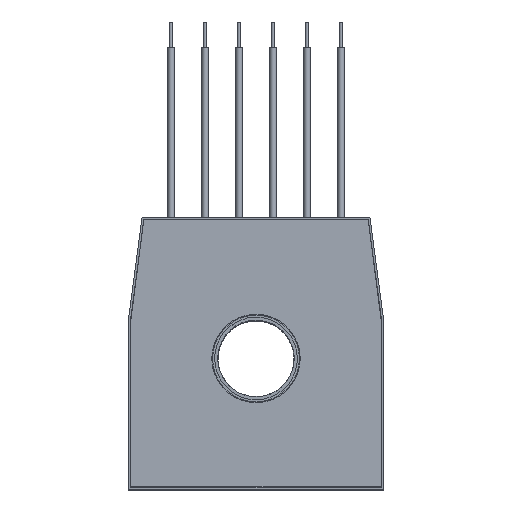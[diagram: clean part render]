
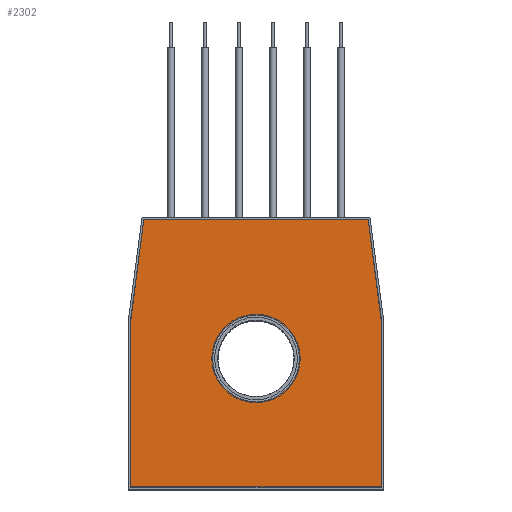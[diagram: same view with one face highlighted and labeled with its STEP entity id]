
A CAD part, top view. The second image highlights one B-rep face of the part: STEP entity #2302.
In plain terms, the highlighted planar face has unit normal (0, 0, 1).
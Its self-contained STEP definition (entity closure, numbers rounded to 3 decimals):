
#2302=ADVANCED_FACE('',(#3766,#3768),#3770,.T.);
#3766=FACE_BOUND('',#3767,.T.);
#3767=EDGE_LOOP('',(#4616,#4617,#4618,#4619,#4620,#4621));
#3768=FACE_BOUND('',#3769,.T.);
#3769=EDGE_LOOP('',(#4622));
#3770=PLANE('',#3771);
#3771=AXIS2_PLACEMENT_3D('',#3772,#3773,#3774);
#3772=CARTESIAN_POINT('',(0.,0.,5.));
#3773=DIRECTION('',(0.,0.,1.));
#3774=DIRECTION('',(1.,0.,0.));
#4616=ORIENTED_EDGE('',*,*,#5035,.T.);
#4617=ORIENTED_EDGE('',*,*,#5036,.T.);
#4618=ORIENTED_EDGE('',*,*,#5037,.T.);
#4619=ORIENTED_EDGE('',*,*,#5038,.T.);
#4620=ORIENTED_EDGE('',*,*,#5039,.T.);
#4621=ORIENTED_EDGE('',*,*,#5040,.T.);
#4622=ORIENTED_EDGE('',*,*,#5041,.T.);
#5035=EDGE_CURVE('',#5706,#5707,#5708,.T.);
#5036=EDGE_CURVE('',#5707,#5709,#5710,.T.);
#5037=EDGE_CURVE('',#5709,#5711,#5712,.T.);
#5038=EDGE_CURVE('',#5711,#5713,#5714,.T.);
#5039=EDGE_CURVE('',#5713,#5715,#5716,.T.);
#5040=EDGE_CURVE('',#5715,#5706,#5717,.T.);
#5041=EDGE_CURVE('',#5718,#5718,#5719,.F.);
#5706=VERTEX_POINT('',#7255);
#5707=VERTEX_POINT('',#7256);
#5708=LINE('',#7257,#7258);
#5709=VERTEX_POINT('',#7260);
#5710=LINE('',#7261,#7262);
#5711=VERTEX_POINT('',#7264);
#5712=LINE('',#7265,#7266);
#5713=VERTEX_POINT('',#7268);
#5714=LINE('',#7269,#7270);
#5715=VERTEX_POINT('',#7272);
#5716=LINE('',#7273,#7274);
#5717=LINE('',#7276,#7277);
#5718=VERTEX_POINT('',#7279);
#5719=CIRCLE('',#7280,25.5);
#7255=CARTESIAN_POINT('',(-73.5,19.815,5.));
#7256=CARTESIAN_POINT('',(-73.5,-78.5,5.));
#7257=CARTESIAN_POINT('',(-73.5,19.815,5.));
#7258=VECTOR('',#7259,1.);
#7259=DIRECTION('',(0.,-1.,0.));
#7260=CARTESIAN_POINT('',(73.5,-78.5,5.));
#7261=CARTESIAN_POINT('',(-73.5,-78.5,5.));
#7262=VECTOR('',#7263,1.);
#7263=DIRECTION('',(1.,0.,0.));
#7264=CARTESIAN_POINT('',(73.5,19.815,5.));
#7265=CARTESIAN_POINT('',(73.5,-78.5,5.));
#7266=VECTOR('',#7267,1.);
#7267=DIRECTION('',(0.,1.,0.));
#7268=CARTESIAN_POINT('',(66.,78.5,5.));
#7269=CARTESIAN_POINT('',(73.5,19.815,5.));
#7270=VECTOR('',#7271,1.);
#7271=DIRECTION('',(-0.127,0.992,0.));
#7272=CARTESIAN_POINT('',(-66.,78.5,5.));
#7273=CARTESIAN_POINT('',(66.,78.5,5.));
#7274=VECTOR('',#7275,1.);
#7275=DIRECTION('',(-1.,0.,0.));
#7276=CARTESIAN_POINT('',(-66.,78.5,5.));
#7277=VECTOR('',#7278,1.);
#7278=DIRECTION('',(-0.127,-0.992,0.));
#7279=CARTESIAN_POINT('',(25.5,-3.,5.));
#7280=AXIS2_PLACEMENT_3D('',#7281,#7282,#7283);
#7281=CARTESIAN_POINT('',(0.,-3.,5.));
#7282=DIRECTION('',(0.,0.,1.));
#7283=DIRECTION('',(1.,0.,0.));
